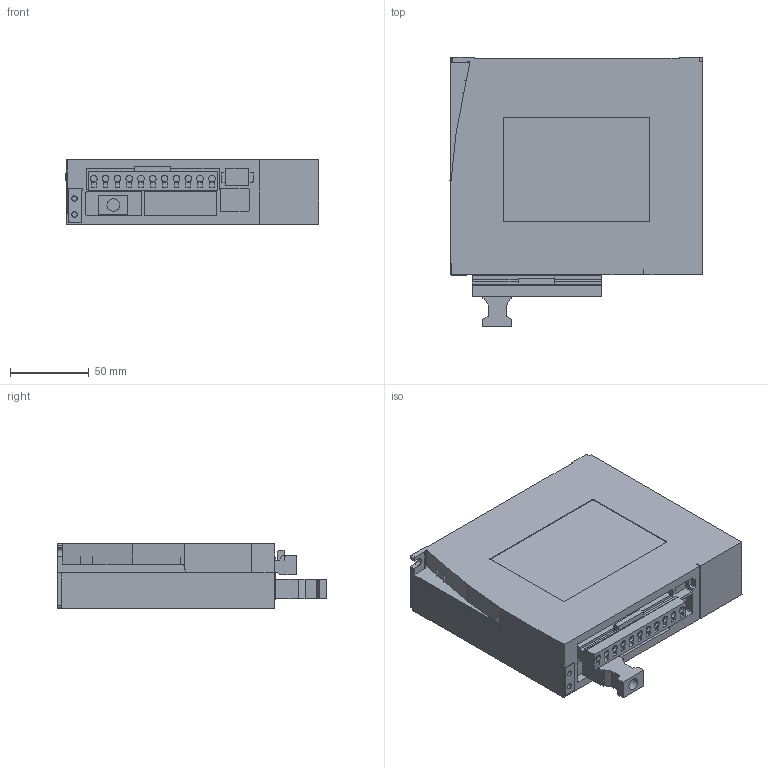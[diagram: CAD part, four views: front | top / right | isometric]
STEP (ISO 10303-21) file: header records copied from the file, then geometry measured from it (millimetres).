
FILE_DESCRIPTION((''),'2;1');
FILE_NAME('CD3-3D-STEP','2018-01-03T17:07:47',('stone'),(''),'CREO PARAMETRIC BY PTC INC, 2016510','CREO PARAMETRIC BY PTC INC, 2016510','');
FILE_SCHEMA(('CONFIG_CONTROL_DESIGN'));
Length unit declared in the file: millimetre
Products named in the file (1): CD3-3D-STEP
Bounding box: 160.79 x 170.94 x 41 mm (x, y, z)
Volume: 894782.6 mm3; surface area: 83610 mm2
Topology: 3 solids, 7 shells, 425 faces, 1122 edges, 747 vertices
Faces by surface type: plane 300, cylinder 96, extrusion 14, bspline 11, cone 3, sphere 1
Entity records: 14065 total; most frequent: CARTESIAN_POINT 3656, ORIENTED_EDGE 2230, DIRECTION 1933, EDGE_CURVE 1121, VECTOR 863, LINE 849, VERTEX_POINT 747, AXIS2_PLACEMENT_3D 535
